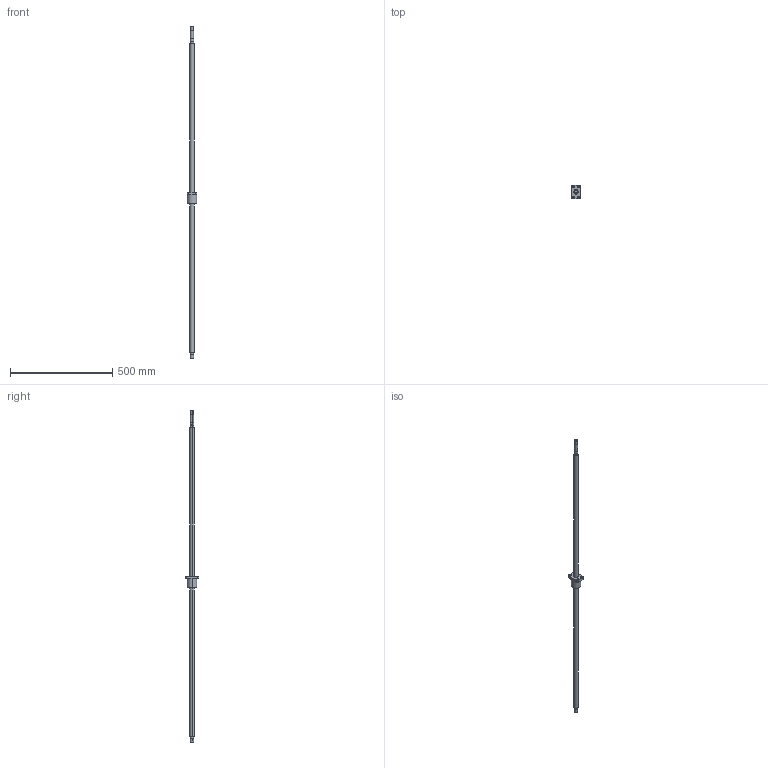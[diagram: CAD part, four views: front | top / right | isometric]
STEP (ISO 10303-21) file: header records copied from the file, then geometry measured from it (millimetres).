
FILE_DESCRIPTION((''),'2;1');
FILE_NAME('R20-20K2-FSC-1510-1620','2008-04-03T',('wcwu'),(''),'PRO/ENGINEER BY PARAMETRIC TECHNOLOGY CORPORATION, 2005070','PRO/ENGINEER BY PARAMETRIC TECHNOLOGY CORPORATION, 2005070','');
FILE_SCHEMA(('CONFIG_CONTROL_DESIGN'));
Length unit declared in the file: millimetre
Products named in the file (1): R20-20K2-FSC-1510-1620
Bounding box: 46 x 66 x 1620 mm (x, y, z)
Volume: 585365.8 mm3; surface area: 113010.2 mm2
Topology: 1 solids, 1 shells, 65 faces, 146 edges, 96 vertices
Faces by surface type: cylinder 40, plane 25
Entity records: 1906 total; most frequent: DIRECTION 360, CARTESIAN_POINT 307, ORIENTED_EDGE 292, AXIS2_PLACEMENT_3D 149, EDGE_CURVE 146, VERTEX_POINT 96, EDGE_LOOP 86, CIRCLE 84
